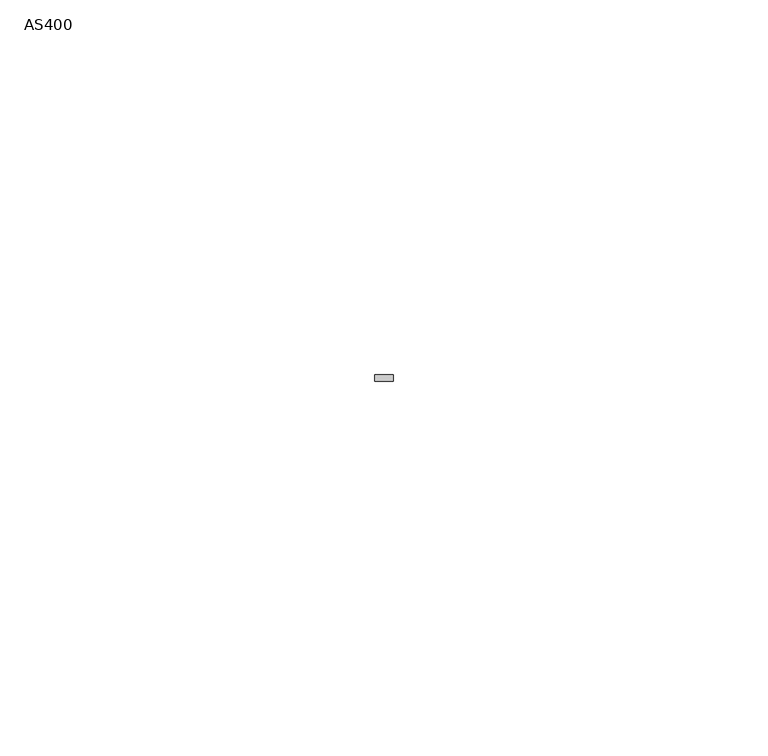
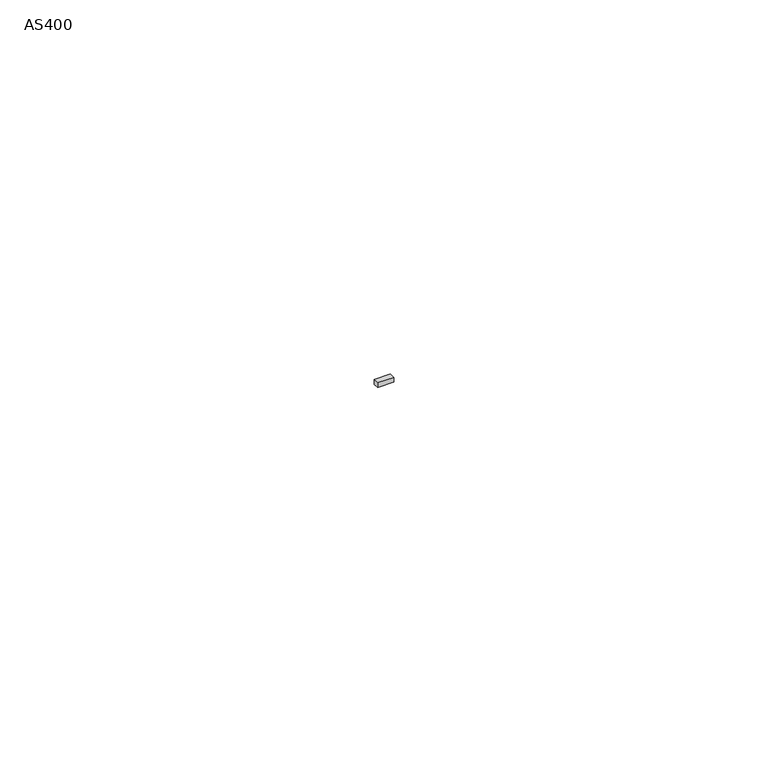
"""IFC4 building model written with IfcOpenShell, lengths in millimetres: proxy geometry, Адаптер AS400 : AS400."""

from ifc_helpers import new_model, si_unit, origin, origin_with_axes, place, context, project, spatial, polyline, outline, extrude, source, transform, mapped, element, save


def as400_464786aa(model_context):
    return source(origin(), model_context, "Body", "SweptSolid", [
        extrude(outline(polyline([(0.0, 0.0), (-2.4806581, 0.0), (-2.4806581, 0.8498768), (0.0, 0.8498768), (0.0, 0.0)])), origin_with_axes(), (0.0, 0.0, 1.0), 0.8017442),
    ])


if __name__ == "__main__":
    model = new_model("IFC4")
    model_context = context("Model", 3, world=origin())
    ifc_project = project(units=[si_unit("LENGTHUNIT", "METRE", prefix="MILLI")], contexts=[model_context])
    site = spatial("IfcSite", under=ifc_project)
    building = spatial("IfcBuilding", under=site)
    placement = place(None, origin())
    as400_shape = as400_464786aa(model_context)
    element("IfcBuildingElementProxy", 1, Name="Адаптер AS400 : AS400", ObjectType="Адаптер AS400 : AS400", at=placement, inside=building, context=model_context, shape_type="MappedRepresentation", body=[
        mapped(as400_shape, transform((0.0, 0.0, 0.0), x_axis=(1.0, 0.0, 0.0), y_axis=(0.0, 1.0, 0.0), z_axis=(0.0, 0.0, 1.0))),
    ])
    save(model, "model.ifc")
